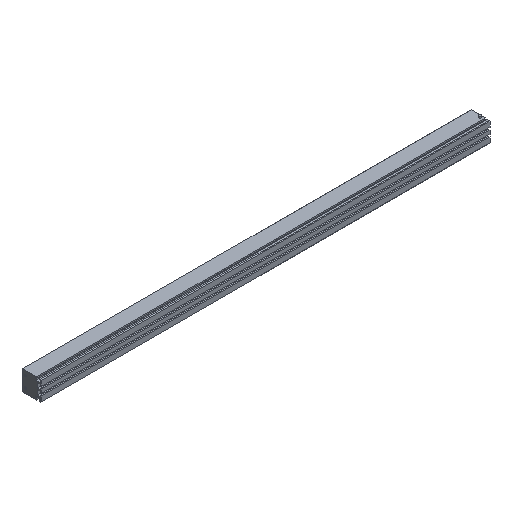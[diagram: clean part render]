
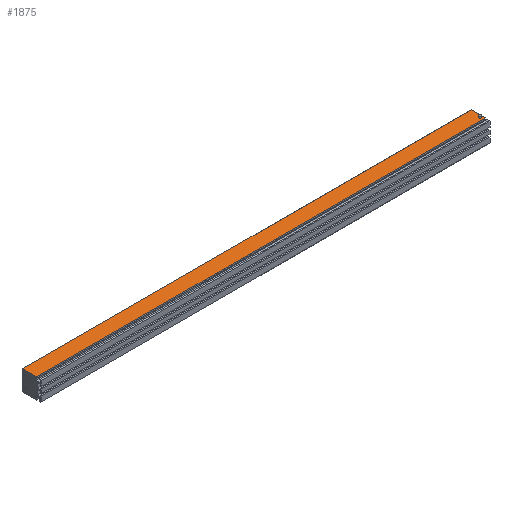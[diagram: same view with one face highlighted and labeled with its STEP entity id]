
A CAD part, isometric view. The second image highlights one B-rep face of the part: STEP entity #1875.
In plain terms, the highlighted planar face has unit normal (0, 0, 1).
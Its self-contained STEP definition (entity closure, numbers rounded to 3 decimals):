
#37 = VECTOR ( 'NONE', #1481, 1000. ) ;
#78 = CARTESIAN_POINT ( 'NONE',  ( 637.15, 11.392, 0. ) ) ;
#188 = ORIENTED_EDGE ( 'NONE', *, *, #1828, .T. ) ;
#247 = EDGE_CURVE ( 'NONE', #725, #1025, #2026, .T. ) ;
#337 = EDGE_LOOP ( 'NONE', ( #1956, #1757, #678, #188 ) ) ;
#365 = ORIENTED_EDGE ( 'NONE', *, *, #1288, .F. ) ;
#387 = VERTEX_POINT ( 'NONE', #696 ) ;
#417 = VECTOR ( 'NONE', #1671, 1000. ) ;
#432 = CARTESIAN_POINT ( 'NONE',  ( 0., 6.6, 0. ) ) ;
#442 = VERTEX_POINT ( 'NONE', #904 ) ;
#488 = CARTESIAN_POINT ( 'NONE',  ( 0., 26.7, 0. ) ) ;
#497 = CARTESIAN_POINT ( 'NONE',  ( 0., 0., 0. ) ) ;
#538 = CARTESIAN_POINT ( 'NONE',  ( 640., 0., 0. ) ) ;
#592 = DIRECTION ( 'NONE',  ( 1., 0., 0. ) ) ;
#605 = CARTESIAN_POINT ( 'NONE',  ( 640., 26.7, 0. ) ) ;
#614 = CARTESIAN_POINT ( 'NONE',  ( 637.15, 11.392, 0. ) ) ;
#667 = FACE_BOUND ( 'NONE', #1251, .T. ) ;
#678 = ORIENTED_EDGE ( 'NONE', *, *, #247, .T. ) ;
#684 = DIRECTION ( 'NONE',  ( 0., 0., 1. ) ) ;
#696 = CARTESIAN_POINT ( 'NONE',  ( 640., 26.7, 0. ) ) ;
#725 = VERTEX_POINT ( 'NONE', #488 ) ;
#741 = CIRCLE ( 'NONE', #1424, 1.85 ) ;
#788 = AXIS2_PLACEMENT_3D ( 'NONE', #1390, #2022, #2029 ) ;
#791 = LINE ( 'NONE', #432, #1082 ) ;
#796 = DIRECTION ( 'NONE',  ( -1., 0., 0. ) ) ;
#877 = VERTEX_POINT ( 'NONE', #1148 ) ;
#904 = CARTESIAN_POINT ( 'NONE',  ( 639., 11.392, 0. ) ) ;
#934 = EDGE_CURVE ( 'NONE', #387, #877, #1389, .T. ) ;
#1025 = VERTEX_POINT ( 'NONE', #1993 ) ;
#1080 = PLANE ( 'NONE',  #788 ) ;
#1082 = VECTOR ( 'NONE', #592, 1000. ) ;
#1148 = CARTESIAN_POINT ( 'NONE',  ( 640., 6.6, 0. ) ) ;
#1178 = DIRECTION ( 'NONE',  ( -1., 0., 0. ) ) ;
#1205 = LINE ( 'NONE', #605, #2012 ) ;
#1251 = EDGE_LOOP ( 'NONE', ( #2028, #365 ) ) ;
#1288 = EDGE_CURVE ( 'NONE', #442, #1341, #1543, .T. ) ;
#1341 = VERTEX_POINT ( 'NONE', #2045 ) ;
#1389 = LINE ( 'NONE', #538, #417 ) ;
#1390 = CARTESIAN_POINT ( 'NONE',  ( 640., 0., 0. ) ) ;
#1391 = AXIS2_PLACEMENT_3D ( 'NONE', #614, #1435, #796 ) ;
#1424 = AXIS2_PLACEMENT_3D ( 'NONE', #78, #684, #1178 ) ;
#1435 = DIRECTION ( 'NONE',  ( 0., 0., 1. ) ) ;
#1481 = DIRECTION ( 'NONE',  ( 0., -1., 0. ) ) ;
#1543 = CIRCLE ( 'NONE', #1391, 1.85 ) ;
#1584 = EDGE_CURVE ( 'NONE', #1341, #442, #741, .T. ) ;
#1671 = DIRECTION ( 'NONE',  ( 0., -1., 0. ) ) ;
#1757 = ORIENTED_EDGE ( 'NONE', *, *, #1853, .T. ) ;
#1828 = EDGE_CURVE ( 'NONE', #1025, #877, #791, .T. ) ;
#1853 = EDGE_CURVE ( 'NONE', #387, #725, #1205, .T. ) ;
#1873 = DIRECTION ( 'NONE',  ( -1., 0., 0. ) ) ;
#1875 = ADVANCED_FACE ( 'NONE', ( #667, #1963 ), #1080, .F. ) ;
#1956 = ORIENTED_EDGE ( 'NONE', *, *, #934, .F. ) ;
#1963 = FACE_OUTER_BOUND ( 'NONE', #337, .T. ) ;
#1993 = CARTESIAN_POINT ( 'NONE',  ( 0., 6.6, 0. ) ) ;
#2012 = VECTOR ( 'NONE', #1873, 1000. ) ;
#2022 = DIRECTION ( 'NONE',  ( 0., 0., -1. ) ) ;
#2026 = LINE ( 'NONE', #497, #37 ) ;
#2028 = ORIENTED_EDGE ( 'NONE', *, *, #1584, .F. ) ;
#2029 = DIRECTION ( 'NONE',  ( -1., 0., 0. ) ) ;
#2045 = CARTESIAN_POINT ( 'NONE',  ( 635.3, 11.392, 0. ) ) ;
